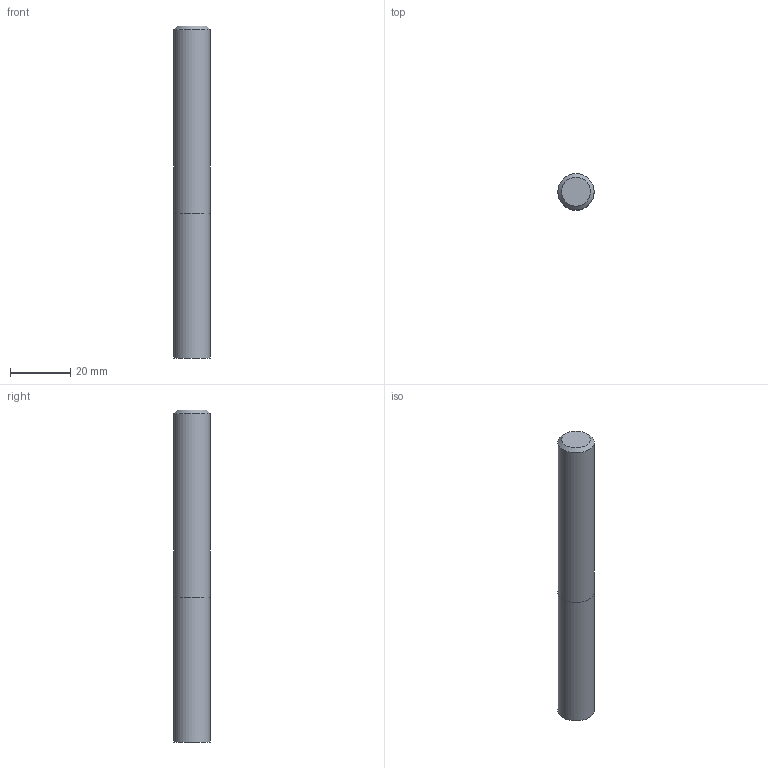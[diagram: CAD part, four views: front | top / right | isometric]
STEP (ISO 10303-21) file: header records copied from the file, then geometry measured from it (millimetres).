
FILE_DESCRIPTION((''),'2;1');
FILE_NAME('C:\Users\nsx150\AppData\Local\Temp\Mastercam 2021\W9Z147XDNF\TEMP.step','2021-04-08T14:47:30',(''),(''),'STEP Write','Mastercam 2021 ... CNC Software, Inc.','');
FILE_SCHEMA(('AUTOMOTIVE_DESIGN'));
Length unit declared in the file: millimetre
Products named in the file (1): None
Bounding box: 12 x 12 x 110 mm (x, y, z)
Volume: 12415.4 mm3; surface area: 4570.9 mm2
Topology: 2 solids, 2 shells, 7 faces, 8 edges, 5 vertices
Faces by surface type: plane 4, cylinder 2, cone 1
Full cylindrical faces by diameter (mm): 12 x2
Entity records: 169 total; most frequent: DIRECTION 28, CARTESIAN_POINT 19, AXIS2_PLACEMENT_3D 14, ORIENTED_EDGE 10, EDGE_LOOP 10, STYLED_ITEM 10, ADVANCED_FACE 7, VERTEX_POINT 5
